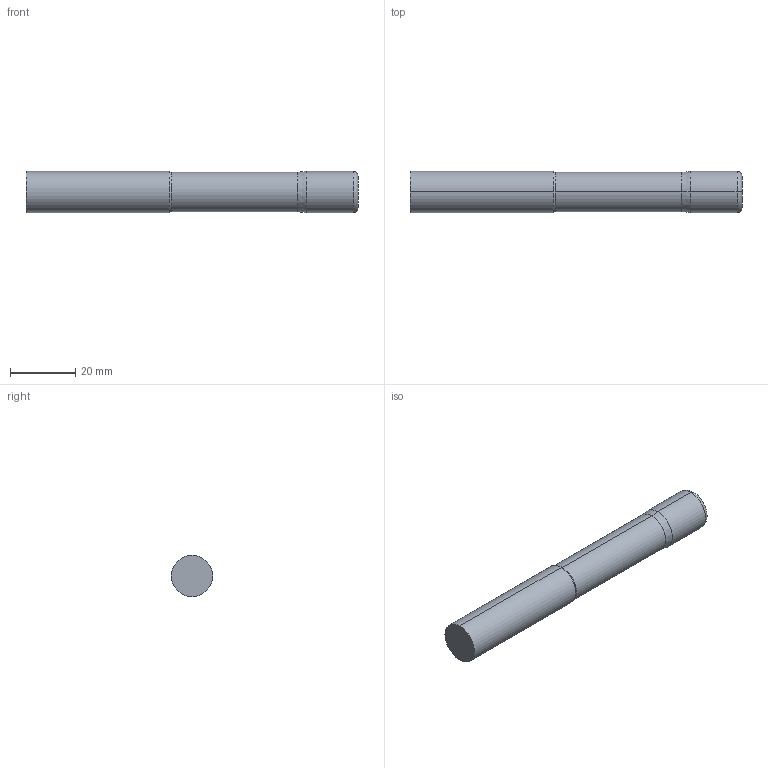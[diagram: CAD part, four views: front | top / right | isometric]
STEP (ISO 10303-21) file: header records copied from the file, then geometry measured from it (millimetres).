
FILE_DESCRIPTION (( 'STEP AP214' ), '1' );
FILE_NAME ('SSIRNM70500-060.STEP', '2025-05-30T14:53:16', ( '' ), ( '' ), 'SwSTEP 2.0', 'SolidWorks 2023', '' );
FILE_SCHEMA (( 'AUTOMOTIVE_DESIGN' ));
Length unit declared in the file: inch
Products named in the file (3): SSI7 Cut Only_SSIRNM70500-060; SSI7 Shank Only_SSIRNM70500-060; SSIRNM70500-060
Assembly tree (2 placements, depth 2):
  SSIRNM70500-060
    SSI7 Cut Only_SSIRNM70500-060
    SSI7 Shank Only_SSIRNM70500-060
Bounding box: 101.6 x 12.7 x 12.7 mm (x, y, z)
Volume: 12354.2 mm3; surface area: 4457 mm2
Topology: 2 solids, 2 shells, 16 faces, 28 edges, 16 vertices
Faces by surface type: cylinder 6, plane 4, cone 4, torus 2
Entity records: 484 total; most frequent: DIRECTION 88, CARTESIAN_POINT 65, ORIENTED_EDGE 56, AXIS2_PLACEMENT_3D 39, EDGE_CURVE 28, CIRCLE 18, ADVANCED_FACE 16, VERTEX_POINT 16
